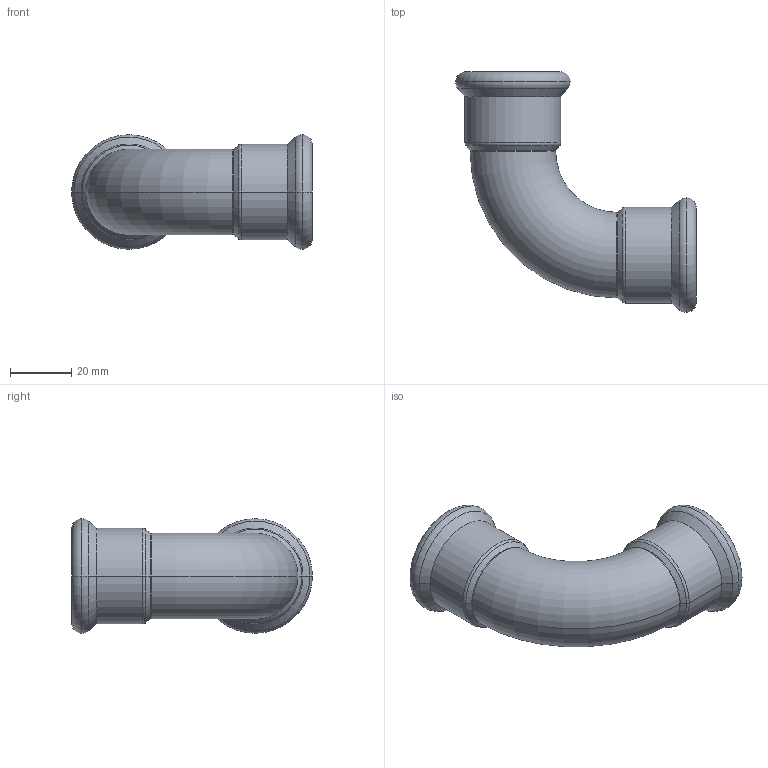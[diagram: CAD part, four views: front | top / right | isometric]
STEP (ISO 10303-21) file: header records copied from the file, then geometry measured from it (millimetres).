
FILE_DESCRIPTION(('CoCreate Modeling STEP Export'),'2;1');
FILE_NAME('C1408 28x28.stp','2014-11-07T16:44:07',(''),(''),'CoCreate Modeling STEP processor for AP214 (Solid Model)','CoCreate Modeling 17.00A 17-Jun-2010 (C) Parametric Technology GmbH','');
FILE_SCHEMA(('AUTOMOTIVE_DESIGN { 1 0 10303 214 1 1 1 1 }'));
Length unit declared in the file: millimetre
Products named in the file (2): C1408_28x28
Assembly tree (1 placements, depth 2):
  C1408_28x28
    C1408_28x28
Bounding box: 78.72 x 78.72 x 37.45 mm (x, y, z)
Volume: 18044.4 mm3; surface area: 20158.5 mm2
Topology: 1 solids, 1 shells, 50 faces, 105 edges, 61 vertices
Faces by surface type: cylinder 20, torus 16, cone 8, plane 6
Entity records: 1124 total; most frequent: ORIENTED_EDGE 210, DIRECTION 176, CARTESIAN_POINT 163, EDGE_CURVE 105, AXIS2_PLACEMENT_3D 74, VERTEX_POINT 61, EDGE_LOOP 56, FACE_OUTER_BOUND 50
